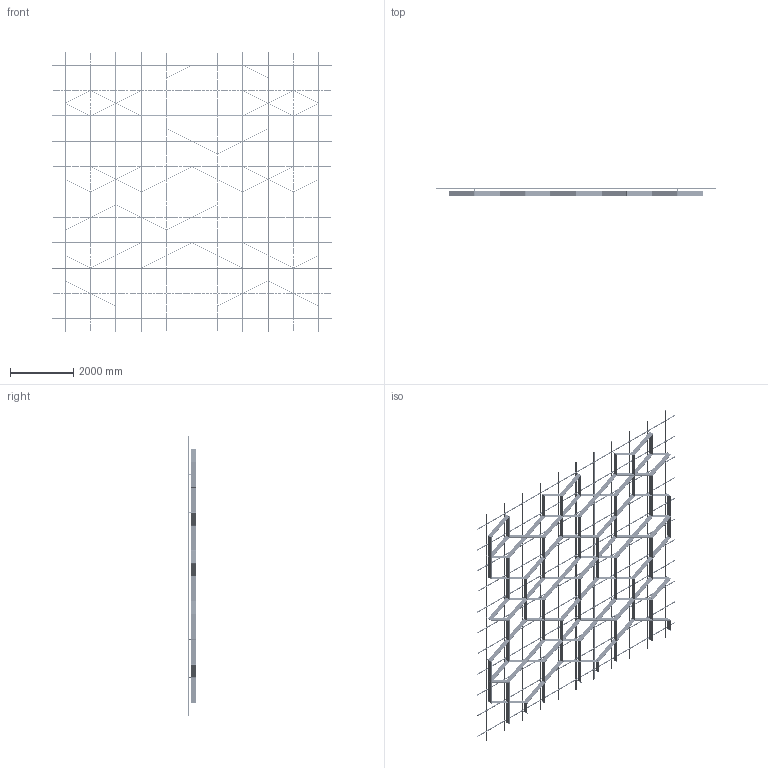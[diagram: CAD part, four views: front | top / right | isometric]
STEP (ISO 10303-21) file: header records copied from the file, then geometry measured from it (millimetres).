
FILE_DESCRIPTION (( 'STEP AP214' ), '1' );
FILE_NAME ('OPT_Var27.STEP', '2025-09-11T13:07:03', ( '' ), ( '' ), 'SwSTEP 2.0', 'SolidWorks 2020', '' );
FILE_SCHEMA (( 'AUTOMOTIVE_DESIGN' ));
Length unit declared in the file: millimetre
Products named in the file (5): SS.SEMA.2400 - Ñèìà-ïðîôèëü — îáðåçàí 1600; SS.SEMA.2400 - Ñèìà-ïðîôèëü; 謶鎷ar27; OPT_Var27; Ñèñòåìà â çîíå 8000õ8000
Assembly tree (90 placements, depth 3):
  OPT_Var27
    Ñèñòåìà â çîíå 8000õ8000
      SS.SEMA.2400 - Ñèìà-ïðîôèëü  x66
      SS.SEMA.2400 - Ñèìà-ïðîôèëü — îáðåçàí 1600  x22
    謶鎷ar27
Bounding box: 8800 x 253 x 8800 mm (x, y, z)
Volume: 169627643.1 mm3; surface area: 68164683.7 mm2
Topology: 627 solids, 627 shells, 18958 faces, 51704 edges, 34000 vertices
Faces by surface type: cylinder 12634, plane 6324
Entity records: 73992 total; most frequent: CARTESIAN_POINT 15228, DIRECTION 10374, ORIENTED_EDGE 10256, EDGE_CURVE 5128, AXIS2_PLACEMENT_3D 4938, VERTEX_POINT 3408, EDGE_LOOP 2964, FACE_OUTER_BOUND 2802
